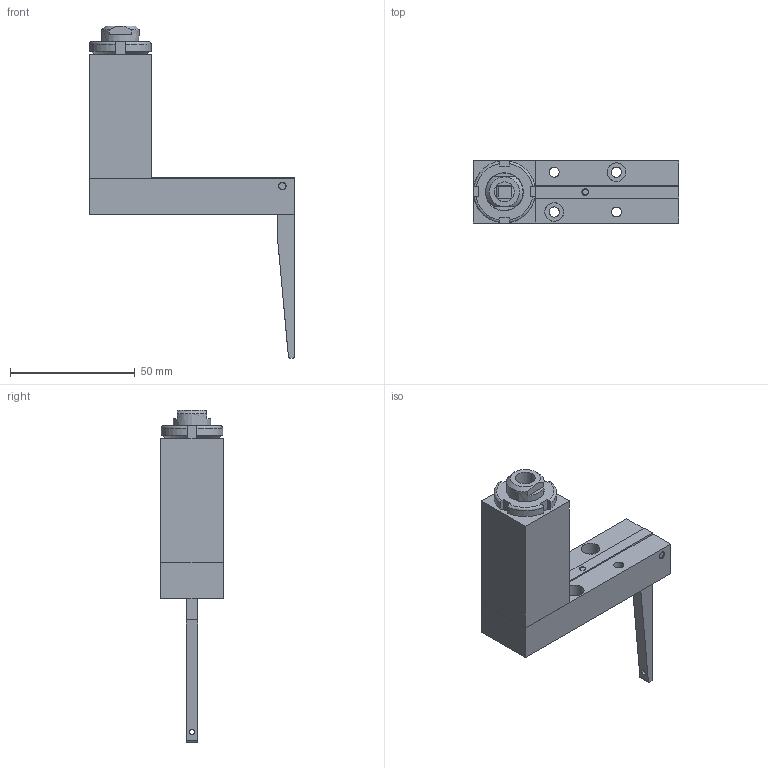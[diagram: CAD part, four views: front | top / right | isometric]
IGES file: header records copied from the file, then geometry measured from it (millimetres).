
Global section: file name: 186.00; native system: Autodesk Inventor 2014; preprocessor: unknown; author: AP; date: 20150507.161423; units: millimetre
Bounding box: 82.5 x 25 x 133.25 mm (x, y, z)
Volume: 58353.3 mm3; surface area: 26798.6 mm2
Topology: 11 solids, 11 shells, 195 faces, 539 edges, 375 vertices
Faces by surface type: bspline 195
